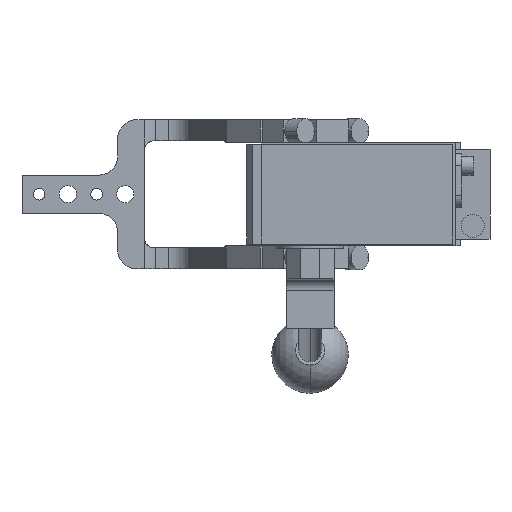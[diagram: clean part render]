
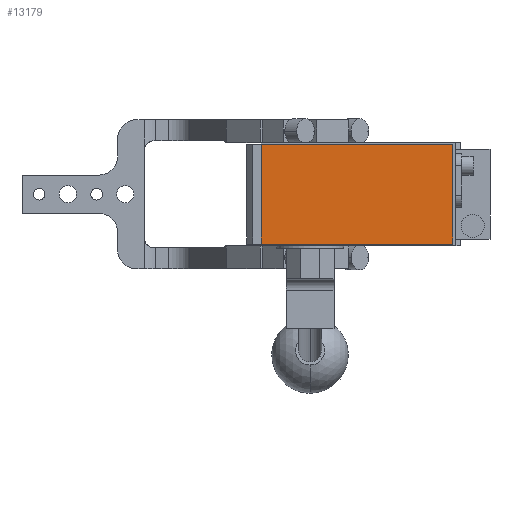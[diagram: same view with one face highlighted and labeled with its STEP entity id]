
A CAD part, front view. The second image highlights one B-rep face of the part: STEP entity #13179.
In plain terms, the highlighted planar face has unit normal (0, -1, 0).
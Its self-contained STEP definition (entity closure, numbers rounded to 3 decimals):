
#25 = DIRECTION ( 'NONE',  ( -1., 0., 0. ) ) ;
#540 = CARTESIAN_POINT ( 'NONE',  ( -19., -286.5, 26. ) ) ;
#1402 = LINE ( 'NONE', #4618, #3966 ) ;
#1545 = ORIENTED_EDGE ( 'NONE', *, *, #12826, .T. ) ;
#1586 = CARTESIAN_POINT ( 'NONE',  ( -19., -286.5, -26. ) ) ;
#2190 = EDGE_CURVE ( 'NONE', #4849, #4576, #12209, .T. ) ;
#2397 = CARTESIAN_POINT ( 'NONE',  ( 81., -286.5, 26. ) ) ;
#3755 = LINE ( 'NONE', #13076, #5854 ) ;
#3813 = CARTESIAN_POINT ( 'NONE',  ( 81., -286.5, -26. ) ) ;
#3966 = VECTOR ( 'NONE', #25, 1000. ) ;
#4576 = VERTEX_POINT ( 'NONE', #2397 ) ;
#4618 = CARTESIAN_POINT ( 'NONE',  ( -19., -286.5, 26. ) ) ;
#4849 = VERTEX_POINT ( 'NONE', #3813 ) ;
#5250 = ORIENTED_EDGE ( 'NONE', *, *, #5459, .T. ) ;
#5459 = EDGE_CURVE ( 'NONE', #6733, #12877, #3755, .T. ) ;
#5641 = PLANE ( 'NONE',  #6601 ) ;
#5854 = VECTOR ( 'NONE', #13378, 1000. ) ;
#5959 = DIRECTION ( 'NONE',  ( 1., 0., 0. ) ) ;
#6601 = AXIS2_PLACEMENT_3D ( 'NONE', #13759, #7024, #12824 ) ;
#6733 = VERTEX_POINT ( 'NONE', #540 ) ;
#7024 = DIRECTION ( 'NONE',  ( 0., -1., 0. ) ) ;
#7379 = EDGE_CURVE ( 'NONE', #4576, #6733, #1402, .T. ) ;
#8265 = LINE ( 'NONE', #12919, #12938 ) ;
#8559 = EDGE_LOOP ( 'NONE', ( #5250, #1545, #10211, #11333 ) ) ;
#10211 = ORIENTED_EDGE ( 'NONE', *, *, #2190, .T. ) ;
#10908 = CARTESIAN_POINT ( 'NONE',  ( 81., -286.5, 26. ) ) ;
#11160 = VECTOR ( 'NONE', #14501, 1000. ) ;
#11333 = ORIENTED_EDGE ( 'NONE', *, *, #7379, .T. ) ;
#12209 = LINE ( 'NONE', #10908, #11160 ) ;
#12824 = DIRECTION ( 'NONE',  ( 0., 0., -1. ) ) ;
#12826 = EDGE_CURVE ( 'NONE', #12877, #4849, #8265, .T. ) ;
#12877 = VERTEX_POINT ( 'NONE', #1586 ) ;
#12919 = CARTESIAN_POINT ( 'NONE',  ( -19., -286.5, -26. ) ) ;
#12938 = VECTOR ( 'NONE', #5959, 1000. ) ;
#13076 = CARTESIAN_POINT ( 'NONE',  ( -19., -286.5, 26. ) ) ;
#13179 = ADVANCED_FACE ( 'NONE', ( #15113 ), #5641, .T. ) ;
#13378 = DIRECTION ( 'NONE',  ( 0., 0., -1. ) ) ;
#13759 = CARTESIAN_POINT ( 'NONE',  ( 0., -286.5, 0. ) ) ;
#14501 = DIRECTION ( 'NONE',  ( 0., 0., 1. ) ) ;
#15113 = FACE_OUTER_BOUND ( 'NONE', #8559, .T. ) ;
